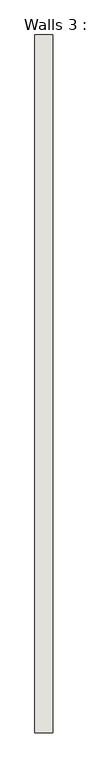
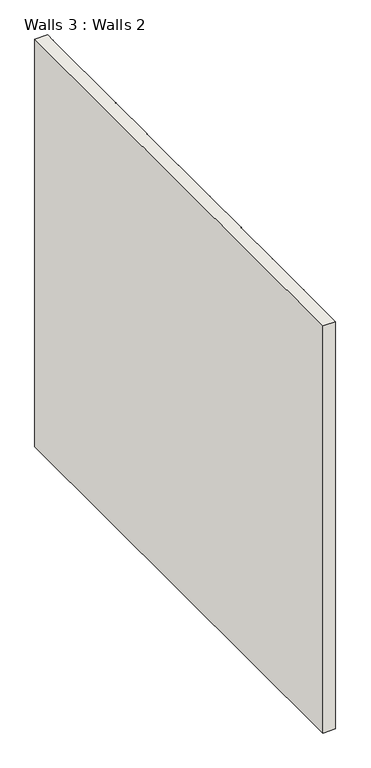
"""IFC4 building model written with IfcOpenShell, lengths in millimetres: wall geometry, Walls 3 : Walls 2."""

from ifc_helpers import new_model, si_unit, frame, origin, place, context, project, spatial, polyline, outline, extrude, source, transform, mapped, element, save


def walls_3_walls_2_fc2f6cde(model_context):
    return source(origin(), model_context, "Body", "SweptSolid", [
        extrude(outline(polyline([(3311.5161968, -3469.5092181), (3311.5161968, -22.958459), (3398.5161968, -22.958459), (3398.5161968, -86.9724578), (3400.3961968, -88.8524578), (3398.5161968, -90.7324578), (3398.5161968, -461.9724578), (3400.3961968, -463.8524578), (3398.5161968, -465.7324578), (3398.5161968, -836.9724578), (3400.3961968, -838.8524578), (3398.5161968, -840.7324578), (3398.5161968, -1211.9724578), (3400.3961968, -1213.8524578), (3398.5161968, -1215.7324578), (3398.5161968, -1586.9724578), (3400.3961968, -1588.8524578), (3398.5161968, -1590.7324578), (3398.5161968, -1961.9724578), (3400.3961968, -1963.8524578), (3398.5161968, -1965.7324578), (3398.5161968, -2336.9724578), (3400.3961968, -2338.8524578), (3398.5161968, -2340.7324578), (3398.5161968, -2711.9724578), (3400.3961968, -2713.8524578), (3398.5161968, -2715.7324578), (3398.5161968, -3086.9724578), (3400.3961968, -3088.8524578), (3398.5161968, -3090.7324578), (3398.5161968, -3469.5092181), (3311.5161968, -3469.5092181)])), frame((0.0, 0.0, 340.0), z_axis=(0.0, 0.0, 1.0), x_axis=(1.0, 0.0, 0.0)), (0.0, 0.0, 1.0), 2971.0),
    ])


if __name__ == "__main__":
    model = new_model("IFC4")
    model_context = context("Model", 3, world=origin())
    ifc_project = project(units=[si_unit("LENGTHUNIT", "METRE", prefix="MILLI")], contexts=[model_context])
    site = spatial("IfcSite", under=ifc_project)
    building = spatial("IfcBuilding", under=site)
    placement = place(None, origin())
    walls_3_walls_2_shape = walls_3_walls_2_fc2f6cde(model_context)
    element("IfcWall", 1, ObjectType="Walls 3 : Walls 2", at=placement, inside=building, context=model_context, shape_type="MappedRepresentation", body=[
        mapped(walls_3_walls_2_shape, transform((0.0, 0.0, 0.0), x_axis=(1.0, 0.0, 0.0), y_axis=(0.0, 1.0, 0.0), z_axis=(0.0, 0.0, 1.0))),
    ])
    save(model, "model.ifc")
